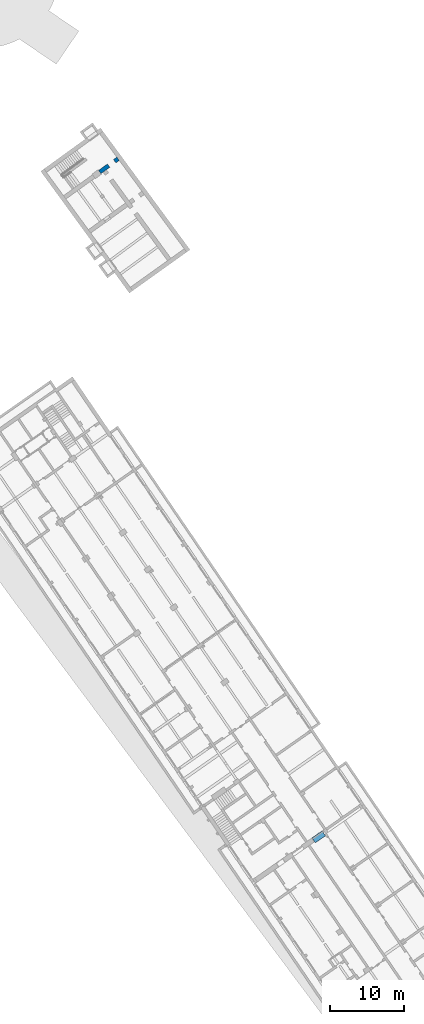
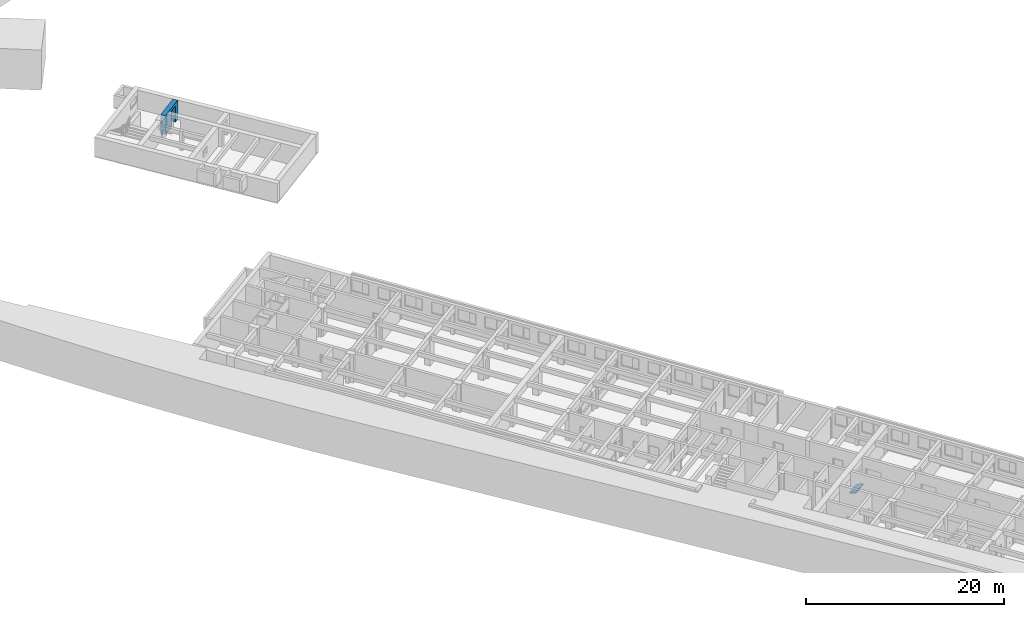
# One storey, part 84 of 112: 1 ramp flight, 1 wall, 1 element without a shape of its own.
"""IFC2X3 building model written with IfcOpenShell, lengths in millimetres."""

from ifc_helpers import new_model, entity, si_unit, converted_unit, derived_unit, direction, frame, origin, place, context, subcontext, project, spatial, polyline, outline, extrude, faceted_brep, material, layer, layer_set, type_object, element, aggregate, save


model = new_model("IFC2X3")

# Units and contexts
model_context = context("Model", 3, precision=0.01, world=origin(), true_north=direction((6.123031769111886e-17, 1.0)))
body_context = subcontext(model_context, "Body", "Model", "MODEL_VIEW")
ifc_project = project(units=[si_unit("LENGTHUNIT", "METRE", prefix="MILLI"), si_unit("AREAUNIT", "SQUARE_METRE"), si_unit("VOLUMEUNIT", "CUBIC_METRE"), converted_unit("PLANEANGLEUNIT", "DEGREE", entity("IfcRatioMeasure", 0.017453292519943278), si_unit("PLANEANGLEUNIT", "RADIAN"), dimensions=[0, 0, 0, 0, 0, 0, 0]), si_unit("MASSUNIT", "GRAM", prefix="KILO"), derived_unit("MASSDENSITYUNIT", [(si_unit("MASSUNIT", "GRAM", prefix="KILO"), 1), (si_unit("LENGTHUNIT", "METRE"), -3)]), derived_unit("MOMENTOFINERTIAUNIT", [(si_unit("LENGTHUNIT", "METRE"), 4)]), si_unit("TIMEUNIT", "SECOND"), si_unit("FREQUENCYUNIT", "HERTZ"), si_unit("THERMODYNAMICTEMPERATUREUNIT", "DEGREE_CELSIUS"), derived_unit("THERMALTRANSMITTANCEUNIT", [(si_unit("MASSUNIT", "GRAM", prefix="KILO"), 1), (si_unit("THERMODYNAMICTEMPERATUREUNIT", "KELVIN"), -1), (si_unit("TIMEUNIT", "SECOND"), -3)]), derived_unit("THERMALCONDUCTANCEUNIT", [(si_unit("MASSUNIT", "GRAM", prefix="KILO"), 1), (si_unit("LENGTHUNIT", "METRE"), 1), (si_unit("THERMODYNAMICTEMPERATUREUNIT", "KELVIN"), -1), (si_unit("TIMEUNIT", "SECOND"), -3)]), derived_unit("VOLUMETRICFLOWRATEUNIT", [(si_unit("LENGTHUNIT", "METRE"), 3), (si_unit("TIMEUNIT", "SECOND"), -1)]), derived_unit("MASSFLOWRATEUNIT", [(si_unit("MASSUNIT", "GRAM", prefix="KILO"), 1), (si_unit("TIMEUNIT", "SECOND"), -1)]), derived_unit("ROTATIONALFREQUENCYUNIT", [(si_unit("TIMEUNIT", "SECOND"), -1)]), si_unit("ELECTRICCURRENTUNIT", "AMPERE"), si_unit("ELECTRICVOLTAGEUNIT", "VOLT"), si_unit("POWERUNIT", "WATT"), converted_unit("FORCEUNIT", "KIP", entity("IfcRatioMeasure", 2.088543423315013e-05), si_unit("FORCEUNIT", "NEWTON"), dimensions=[1, 1, -2, 0, 0, 0, 0]), si_unit("ILLUMINANCEUNIT", "LUX"), si_unit("LUMINOUSFLUXUNIT", "LUMEN"), si_unit("LUMINOUSINTENSITYUNIT", "CANDELA"), derived_unit("USERDEFINED", [(si_unit("MASSUNIT", "GRAM", prefix="KILO"), -1), (si_unit("LENGTHUNIT", "METRE"), -2), (si_unit("TIMEUNIT", "SECOND"), 3), (si_unit("LUMINOUSFLUXUNIT", "LUMEN"), 1)]), derived_unit("USERDEFINED", [(si_unit("MASSUNIT", "GRAM", prefix="KILO"), 1), (si_unit("LENGTHUNIT", "METRE"), 3), (si_unit("TIMEUNIT", "SECOND"), -3), (si_unit("ELECTRICCURRENTUNIT", "AMPERE"), -2)]), derived_unit("USERDEFINED", [(si_unit("LENGTHUNIT", "METRE"), 2), (si_unit("TIMEUNIT", "SECOND"), -2)]), derived_unit("SOUNDPOWERUNIT", [(si_unit("MASSUNIT", "GRAM", prefix="KILO"), 1), (si_unit("LENGTHUNIT", "METRE"), 2), (si_unit("TIMEUNIT", "SECOND"), -3)]), derived_unit("SOUNDPRESSUREUNIT", [(si_unit("MASSUNIT", "GRAM", prefix="KILO"), 1), (si_unit("LENGTHUNIT", "METRE"), -1), (si_unit("TIMEUNIT", "SECOND"), -2)]), derived_unit("LINEARVELOCITYUNIT", [(si_unit("LENGTHUNIT", "METRE"), 1), (si_unit("TIMEUNIT", "SECOND"), -1)]), si_unit("PRESSUREUNIT", "PASCAL"), derived_unit("USERDEFINED", [(si_unit("LENGTHUNIT", "METRE"), -2), (si_unit("MASSUNIT", "GRAM", prefix="KILO"), 1), (si_unit("TIMEUNIT", "SECOND"), -2)]), derived_unit("LINEARFORCEUNIT", [(si_unit("MASSUNIT", "GRAM", prefix="KILO"), 1), (si_unit("LENGTHUNIT", "METRE"), 1), (si_unit("TIMEUNIT", "SECOND"), -2), (si_unit("LENGTHUNIT", "METRE"), -1)]), derived_unit("PLANARFORCEUNIT", [(si_unit("MASSUNIT", "GRAM", prefix="KILO"), 1), (si_unit("LENGTHUNIT", "METRE"), 1), (si_unit("TIMEUNIT", "SECOND"), -2), (si_unit("LENGTHUNIT", "METRE"), -2)]), derived_unit("SPECIFICHEATCAPACITYUNIT", [(si_unit("LENGTHUNIT", "METRE"), 2), (si_unit("TIMEUNIT", "SECOND"), -2), (si_unit("THERMODYNAMICTEMPERATUREUNIT", "KELVIN"), -1)]), derived_unit("VAPORPERMEABILITYUNIT", [(si_unit("TIMEUNIT", "SECOND"), 1), (si_unit("LENGTHUNIT", "METRE"), -1)]), derived_unit("DYNAMICVISCOSITYUNIT", [(si_unit("MASSUNIT", "GRAM", prefix="KILO"), 1), (si_unit("LENGTHUNIT", "METRE"), -1), (si_unit("TIMEUNIT", "SECOND"), -1)]), derived_unit("THERMALEXPANSIONCOEFFICIENTUNIT", [(si_unit("THERMODYNAMICTEMPERATUREUNIT", "KELVIN"), -1)])], contexts=[model_context])

# Site, building, storey
site_placement = place(None, frame((0.0, 0.0, 0.0), z_axis=(0.0, 0.0, 1.0), x_axis=(0.8191520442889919, 0.5735764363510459, 0.0)))
site = spatial("IfcSite", under=ifc_project, at=site_placement, Name="Default", CompositionType="ELEMENT")
building_placement = place(site_placement, origin())
building = spatial("IfcBuilding", under=site, at=building_placement, CompositionType="ELEMENT")
storey_placement = place(building_placement, frame((0.0, 0.0, -3600.0)))
storey = spatial("IfcBuildingStorey", under=building, at=storey_placement, Name="0.UG -3.60", CompositionType="ELEMENT", Elevation=-3600.0000000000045)

# Wall
ifc_material = material(Name="Analytical Wall Surface_CJC")
ifc_layer = layer(ifc_material, 550.0)
ifc_layer_set = layer_set([ifc_layer], Name="Basic Wall:Wand_Innen_55")
wall_type = type_object("IfcWallType", Name="Basic Wall:Wand_Innen_55", PredefinedType="STANDARD", material=ifc_layer_set)
wall_placement = place(storey_placement, frame((-182223.75600822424, 193484.87451606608, -50.0), z_axis=(0.0, 0.0, 1.0), x_axis=(-0.9998806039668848, -0.01545243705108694, 0.0)))
element("IfcWall", 1, at=wall_placement, inside=storey, type_object=wall_type, Name="Basic Wall:Wand_Innen_55", ObjectType="Basic Wall:Wand_Innen_55", context=body_context, shape_type="Brep", body=[
    faceted_brep([(4.303763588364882, -275.0, 0.0), (560.4306628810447, -275.0, 0.0), (560.4306628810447, -275.0, 2000.0), (1560.4306628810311, -275.0, 2000.0), (1560.4306628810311, -275.0, 0.0), (3031.9439236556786, -275.0, 0.0), (3031.9439236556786, -275.0, 2350.0), (4.303763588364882, -275.0, 2350.0), (0.0, 275.0, 0.0), (0.0, 275.0, 2350.0), (2132.2109642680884, 275.0, 2350.0), (2682.2135739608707, 275.0, 2350.0), (3031.943923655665, 275.0, 2350.0), (3031.943923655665, 275.0, 0.0), (2682.2135739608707, 275.0, 0.0), (2132.210964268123, 275.0, 0.0), (1560.4306628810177, 275.0, 0.0), (1560.4306628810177, 275.0, 2000.0), (560.4306628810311, 275.0, 2000.0), (560.4306628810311, 275.0, 0.0)], [[[0, 1, 2, 3, 4, 5, 6, 7]], [[8, 9, 10, 11, 12, 13, 14, 15, 16, 17, 18, 19]], [[0, 7, 9, 8]], [[1, 0, 8, 19]], [[6, 5, 13, 12]], [[7, 6, 12, 11, 10, 9]], [[2, 1, 19, 18]], [[3, 2, 18, 17]], [[4, 3, 17, 16]], [[5, 4, 16, 15, 14, 13]]]),
])

# Ramp, ramp flight
ramp_placement = place(storey_placement, origin())
ramp = element("IfcRamp", 2, at=ramp_placement, inside=storey, Name="Ramp:Standard", ObjectType="Ramp:Standard", ShapeType="NOTDEFINED")
ramp_flight_placement = place(ramp_placement, origin())
ramp_flight = element("IfcRampFlight", 3, at=ramp_flight_placement, material=ifc_material, Name="Ramp:Standard:1", ObjectType="Ramp:Standard", context=body_context, shape_type="SweptSolid", body=[
    extrude(outline(polyline([(-230.0388646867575, -402.4999999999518), (-69.96113531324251, -402.4999999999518), (230.0388646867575, 402.4999999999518), (69.96113531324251, 402.4999999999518), (-230.0388646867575, -402.4999999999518)])), frame((-213206.27612994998, 103448.85891435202, 69.96113531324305), z_axis=(1.0, 0.0, 0.0), x_axis=(0.0, 0.0, -1.0)), (0.0, 0.0, 1.0), 1653.1783006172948),
])
aggregate(ramp, [ramp_flight])

save(model, "model.ifc")
